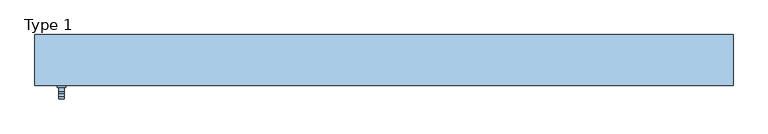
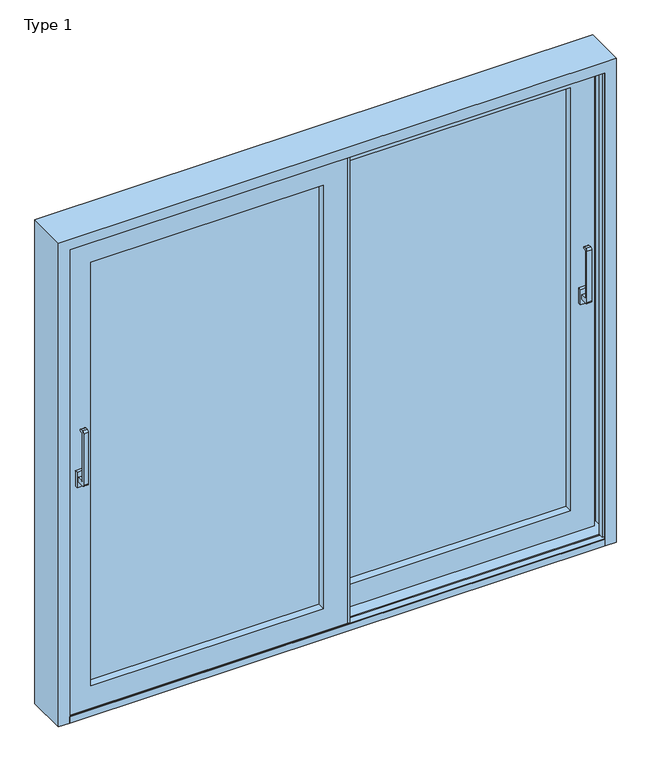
"""IFC4 building model written with IfcOpenShell, lengths in millimetres: window geometry, ETEM_ES70_Double_Lift_Sliding_FR : Type 1."""

import ifcopenshell
import ifcopenshell.guid

model = None  # the IFC model being written
_history = None  # IfcOwnerHistory: only IFC2X3 demands one
_inside = {}  # id of a spatial element -> (the spatial element, [elements in it])
_under = {}  # id of a project, library or spatial element -> (it, [spatial elements below it])
_declared = {}  # id of a project -> (the project, [libraries it declares])
_typed = {}  # id of a type object -> (the type object, [elements of that type])
_made_of = {}  # id of a material, layer set ... -> (it, [elements and type objects made of it])


def new_model(schema):
    """Start an empty IFC model of exactly this schema.

    Asked for "IFC4X3", IfcOpenShell would pick the latest addendum, in which some entities
    have other attributes; the version numbers below select the first issue.
    IFC2X3 requires an IfcOwnerHistory on every rooted entity: one is made here for all.
    """
    global model, _history
    if schema == "IFC4X3":
        model = ifcopenshell.file(schema_version=(4, 3, 0, 0))
    else:
        model = ifcopenshell.file(schema=schema)
    _inside.clear()
    _under.clear()
    _declared.clear()
    _typed.clear()
    _made_of.clear()
    _history = None
    if model.schema == "IFC2X3":
        org = make("IfcOrganization", Name="unknown")
        user = make(
            "IfcPersonAndOrganization",
            ThePerson=make("IfcPerson", FamilyName="unknown"),
            TheOrganization=org,
        )
        app = make(
            "IfcApplication",
            ApplicationDeveloper=org,
            Version="unknown",
            ApplicationFullName="unknown",
            ApplicationIdentifier="unknown",
        )
        _history = make(
            "IfcOwnerHistory",
            OwningUser=user,
            OwningApplication=app,
            ChangeAction="ADDED",
            CreationDate=0,
        )
    return model


def make(cls, **values):
    """One entity of the class cls with the attributes given. An attribute that is None is left unset."""
    return model.create_entity(
        cls, **{name: value for name, value in values.items() if value is not None}
    )


def rooted(cls, **values):
    """An entity with a GlobalId (a new one), such as an element, a storey or a relation."""
    return make(cls, GlobalId=ifcopenshell.guid.new(), OwnerHistory=_history, **values)


def si_unit(unit_type, name, prefix=None):
    """IfcSIUnit, for example si_unit("LENGTHUNIT", "METRE", prefix="MILLI")."""
    return make("IfcSIUnit", UnitType=unit_type, Prefix=prefix, Name=name)


def assignment(units):
    """IfcUnitAssignment: the units of a project."""
    return None if units is None else make("IfcUnitAssignment", Units=units)


def point(xyz):
    """IfcCartesianPoint."""
    return None if xyz is None else make("IfcCartesianPoint", Coordinates=xyz)


def direction(xyz):
    """IfcDirection."""
    return None if xyz is None else make("IfcDirection", DirectionRatios=xyz)


def frame(location, z_axis=None, x_axis=None):
    """IfcAxis2Placement3D, a coordinate frame: its origin and axes. An axis left out is left unset."""
    return make(
        "IfcAxis2Placement3D",
        Location=point(location),
        Axis=direction(z_axis),
        RefDirection=direction(x_axis),
    )


def frame_2d(location, x_axis=None):
    """IfcAxis2Placement2D, a coordinate frame in the plane: its origin and x axis."""
    return make(
        "IfcAxis2Placement2D", Location=point(location), RefDirection=direction(x_axis)
    )


def origin():
    """The frame at (0, 0, 0) with its axes left unset."""
    return frame((0.0, 0.0, 0.0))


def place(relative_to, where):
    """IfcLocalPlacement: puts the frame where relative to a parent placement (None: the world)."""
    return make(
        "IfcLocalPlacement", PlacementRelTo=relative_to, RelativePlacement=where
    )


def context(
    kind, dimensions, precision=None, world=None, true_north=None, identifier=None
):
    """IfcGeometricRepresentationContext, for example the 3D "Model" context."""
    return make(
        "IfcGeometricRepresentationContext",
        ContextIdentifier=identifier,
        ContextType=kind,
        CoordinateSpaceDimension=dimensions,
        Precision=precision,
        WorldCoordinateSystem=world,
        TrueNorth=true_north,
    )


def project(units=None, contexts=None):
    """IfcProject with its units and contexts."""
    return rooted(
        "IfcProject",
        Name="project",
        RepresentationContexts=contexts,
        UnitsInContext=assignment(units),
    )


def spatial(cls, under=None, at=None, **own):
    """A site, building, storey or space (cls), placed at a placement, below another one or the project."""
    s = rooted(cls, ObjectPlacement=at, **own)
    if under is not None:
        _under.setdefault(under.id(), (under, []))[1].append(s)
    return s


def polyline(points):
    """IfcPolyline through the points."""
    return make("IfcPolyline", Points=[point(p) for p in points])


def circle_curve(where, radius):
    """IfcCircle in the frame where."""
    return make("IfcCircle", Position=where, Radius=radius)


def trimmed(basis, trim1, trim2, sense, master):
    """IfcTrimmedCurve: the piece of a basis curve between two trims."""
    return make(
        "IfcTrimmedCurve",
        BasisCurve=basis,
        Trim1=trim1,
        Trim2=trim2,
        SenseAgreement=sense,
        MasterRepresentation=master,
    )


def segment(curve, same_sense, transition):
    """IfcCompositeCurveSegment."""
    return make(
        "IfcCompositeCurveSegment",
        Transition=transition,
        SameSense=same_sense,
        ParentCurve=curve,
    )


def composite_curve(segments, self_intersect=None):
    """IfcCompositeCurve: segments joined end to end."""
    return make("IfcCompositeCurve", Segments=segments, SelfIntersect=self_intersect)


def outline(outer, holes=None, kind="AREA"):
    """IfcArbitraryClosedProfileDef: a profile drawn as a closed curve; with holes, ...WithVoids."""
    if holes is None:
        return make("IfcArbitraryClosedProfileDef", ProfileType=kind, OuterCurve=outer)
    return make(
        "IfcArbitraryProfileDefWithVoids",
        ProfileType=kind,
        OuterCurve=outer,
        InnerCurves=holes,
    )


def extrude(swept, where, along, depth):
    """IfcExtrudedAreaSolid: the profile swept, set in the frame where, extruded along a direction by depth."""
    return make(
        "IfcExtrudedAreaSolid",
        SweptArea=swept,
        Position=where,
        ExtrudedDirection=direction(along),
        Depth=depth,
    )


def faces_of(points, faces, orient=None, outer=None):
    """IfcFace entities. A face is a list of loops; a loop is a list of indices into points, from 0.

    orient and outer hold one flag for each loop. By default every Orientation is true, the
    first loop of a face is its IfcFaceOuterBound and the others are IfcFaceBound.
    """
    made = []
    for i, loops in enumerate(faces):
        bounds = []
        for j, loop in enumerate(loops):
            is_outer = j == 0 if outer is None else outer[i][j]
            bounds.append(
                make(
                    "IfcFaceOuterBound" if is_outer else "IfcFaceBound",
                    Bound=make("IfcPolyLoop", Polygon=[points[k] for k in loop]),
                    Orientation=True if orient is None else orient[i][j],
                )
            )
        made.append(make("IfcFace", Bounds=bounds))
    return made


def faceted_brep(points, faces, orient=None, outer=None, voids=None):
    """IfcFacetedBrep: a solid bounded by flat faces; with voids (closed shells), ...WithVoids."""
    shared = [point(p) for p in points]
    hull = make("IfcClosedShell", CfsFaces=faces_of(shared, faces, orient, outer))
    if voids is None:
        return make("IfcFacetedBrep", Outer=hull)
    return make(
        "IfcFacetedBrepWithVoids",
        Outer=hull,
        Voids=[
            make(cls, CfsFaces=faces_of(shared, fs, o, b)) for cls, fs, o, b in voids
        ],
    )


def shape(context_of_items, identifier, shape_type, items):
    """IfcShapeRepresentation: the items that make up one representation, for example the "Body"."""
    return make(
        "IfcShapeRepresentation",
        ContextOfItems=context_of_items,
        RepresentationIdentifier=identifier,
        RepresentationType=shape_type,
        Items=items,
    )


def source(mapping_origin, context_of_items, identifier, shape_type, items):
    """IfcRepresentationMap: a shape defined once, which mapped items show again and again."""
    return make(
        "IfcRepresentationMap",
        MappingOrigin=mapping_origin,
        MappedRepresentation=shape(context_of_items, identifier, shape_type, items),
    )


def transform(
    local_origin,
    x_axis=None,
    y_axis=None,
    z_axis=None,
    scale=None,
    scale2=None,
    scale3=None,
    uniform=True,
):
    """IfcCartesianTransformationOperator3D, or its non-uniform kind. x_axis, y_axis, z_axis: its Axis1, 2, 3."""
    if uniform:
        return make(
            "IfcCartesianTransformationOperator3D",
            Axis1=direction(x_axis),
            Axis2=direction(y_axis),
            LocalOrigin=point(local_origin),
            Scale=scale,
            Axis3=direction(z_axis),
        )
    return make(
        "IfcCartesianTransformationOperator3DnonUniform",
        Axis1=direction(x_axis),
        Axis2=direction(y_axis),
        LocalOrigin=point(local_origin),
        Scale=scale,
        Axis3=direction(z_axis),
        Scale2=scale2,
        Scale3=scale3,
    )


def mapped(mapping_source, mapping_target):
    """IfcMappedItem: shows the shape of a source again, moved by a transform."""
    return make(
        "IfcMappedItem", MappingSource=mapping_source, MappingTarget=mapping_target
    )


def made_of(thing, what):
    """Note that an element or type object is made of a material, layer set ...; save() writes the relation."""
    if what is not None:
        _made_of.setdefault(what.id(), (what, []))[1].append(thing)
    return thing


def element(
    cls,
    number,
    at=None,
    inside=None,
    cuts=None,
    type_object=None,
    material=None,
    context=None,
    identifier="Body",
    shape_type=None,
    held_by="IfcProductDefinitionShape",
    body=None,
    shapes=None,
    **own,
):
    """One element of the class cls, such as IfcWall. Its Tag is "e" and its number.

    at: its placement. inside: the storey or other place that contains it. cuts: it is an
    opening in that element (IfcRelVoidsElement). A single representation is given by context,
    identifier, shape_type and body (its items); several are given by shapes. held_by: the class
    of the entity that holds the representations. save() writes the other relations.
    """
    e = rooted(cls, Tag="e%d" % number, ObjectPlacement=at, **own)
    if body is not None:
        shapes = [shape(context, identifier, shape_type, body)]
    if shapes is not None:
        e.Representation = make(held_by, Representations=shapes)
    if inside is not None:
        _inside.setdefault(inside.id(), (inside, []))[1].append(e)
    if cuts is not None:
        rooted(
            "IfcRelVoidsElement", RelatingBuildingElement=cuts, RelatedOpeningElement=e
        )
    if type_object is not None:
        _typed.setdefault(type_object.id(), (type_object, []))[1].append(e)
    return made_of(e, material)


def aggregate(whole, parts):
    """IfcRelAggregates: a whole, such as a stair, and the parts it consists of."""
    return rooted("IfcRelAggregates", RelatingObject=whole, RelatedObjects=parts)


def save(model, path):
    """Write the relations noted so far, then the file.

    IfcRelAggregates (storeys below a building ...), IfcRelContainedInSpatialStructure (elements
    in a storey), IfcRelDefinesByType, IfcRelAssociatesMaterial and IfcRelDeclares: one each for
    every whole, place, type object, material and project.
    """
    for whole, parts in _under.values():
        aggregate(whole, parts)
    for where, things in _inside.values():
        rooted(
            "IfcRelContainedInSpatialStructure",
            RelatedElements=things,
            RelatingStructure=where,
        )
    for kind, things in _typed.values():
        rooted("IfcRelDefinesByType", RelatedObjects=things, RelatingType=kind)
    for what, things in _made_of.values():
        rooted("IfcRelAssociatesMaterial", RelatedObjects=things, RelatingMaterial=what)
    for by, libraries in _declared.values():
        rooted("IfcRelDeclares", RelatingContext=by, RelatedDefinitions=libraries)
    model.write(path)


def type_1_8090e060(model_context):
    return source(origin(), model_context, "Body", "SolidModel", [
        extrude(outline(composite_curve([segment(polyline([(39.6, 1090.0), (8.0263152, 1090.0)]), True, "CONTINUOUS"), segment(trimmed(circle_curve(frame_2d((8.0263152, 1098.4263152)), 8.4263152), [point((8.0263152, 1090.0))], [point((-0.4, 1098.4263152))], False, "CARTESIAN"), True, "CONTINUOUS"), segment(polyline([(-0.4, 1098.4263152), (-0.4, 1331.5736848)]), True, "CONTINUOUS"), segment(trimmed(circle_curve(frame_2d((8.0263152, 1331.5736848)), 8.4263152), [point((-0.4, 1331.5736848))], [point((8.0263152, 1340.0))], False, "CARTESIAN"), True, "CONTINUOUS"), segment(polyline([(8.0263152, 1340.0), (19.6, 1340.0)]), True, "CONTINUOUS"), segment(trimmed(circle_curve(frame_2d((19.6, 1335.0)), 5.0), [point((19.6, 1340.0))], [point((19.6, 1330.0))], False, "CARTESIAN"), True, "CONTINUOUS"), segment(polyline([(19.6, 1330.0), (13.1355339, 1330.0)]), True, "CONTINUOUS"), segment(trimmed(circle_curve(frame_2d((13.1355339, 1326.4644661)), 3.5355339), [point((13.1355339, 1330.0))], [point((9.6, 1326.4644661))], True, "CARTESIAN"), True, "CONTINUOUS"), segment(polyline([(9.6, 1326.4644661), (9.6, 1113.5355339)]), True, "CONTINUOUS"), segment(trimmed(circle_curve(frame_2d((13.1355339, 1113.5355339)), 3.5355339), [point((9.6, 1113.5355339))], [point((13.1355339, 1110.0))], True, "CARTESIAN"), True, "CONTINUOUS"), segment(polyline([(13.1355339, 1110.0), (39.6, 1110.0), (39.6, 1090.0)]), True, "CONTINUOUS")], self_intersect=False)), frame((1098.5, 0.0, 0.0), z_axis=(1.0, 0.0, 0.0), x_axis=(0.0, 1.0, 0.0)), (0.0, 0.0, 1.0), 20.0),
        extrude(outline(polyline([(1123.5, 39.6), (1093.5, 39.6), (1093.5, 52.6), (1123.5, 52.6), (1123.5, 39.6)])), frame((0.0, 0.0, 1065.0), z_axis=(0.0, 0.0, 1.0), x_axis=(1.0, 0.0, 0.0)), (0.0, 0.0, 1.0), 70.0),
        extrude(outline(composite_curve([segment(polyline([(-50.4, 1090.0), (-81.9736848, 1090.0)]), True, "CONTINUOUS"), segment(trimmed(circle_curve(frame_2d((-81.9736848, 1098.4263152)), 8.4263152), [point((-81.9736848, 1090.0))], [point((-90.4, 1098.4263152))], False, "CARTESIAN"), True, "CONTINUOUS"), segment(polyline([(-90.4, 1098.4263152), (-90.4, 1331.5736848)]), True, "CONTINUOUS"), segment(trimmed(circle_curve(frame_2d((-81.9736848, 1331.5736848)), 8.4263152), [point((-90.4, 1331.5736848))], [point((-81.9736848, 1340.0))], False, "CARTESIAN"), True, "CONTINUOUS"), segment(polyline([(-81.9736848, 1340.0), (-70.4, 1340.0)]), True, "CONTINUOUS"), segment(trimmed(circle_curve(frame_2d((-70.4, 1335.0)), 5.0), [point((-70.4, 1340.0))], [point((-70.4, 1330.0))], False, "CARTESIAN"), True, "CONTINUOUS"), segment(polyline([(-70.4, 1330.0), (-76.8644661, 1330.0)]), True, "CONTINUOUS"), segment(trimmed(circle_curve(frame_2d((-76.8644661, 1326.4644661)), 3.5355339), [point((-76.8644661, 1330.0))], [point((-80.4, 1326.4644661))], True, "CARTESIAN"), True, "CONTINUOUS"), segment(polyline([(-80.4, 1326.4644661), (-80.4, 1113.5355339)]), True, "CONTINUOUS"), segment(trimmed(circle_curve(frame_2d((-76.8644661, 1113.5355339)), 3.5355339), [point((-80.4, 1113.5355339))], [point((-76.8644661, 1110.0))], True, "CARTESIAN"), True, "CONTINUOUS"), segment(polyline([(-76.8644661, 1110.0), (-50.4, 1110.0), (-50.4, 1090.0)]), True, "CONTINUOUS")], self_intersect=False)), frame((-1118.5, 0.0, 0.0), z_axis=(1.0, 0.0, 0.0), x_axis=(0.0, 1.0, 0.0)), (0.0, 0.0, 1.0), 20.0),
        extrude(outline(polyline([(-1093.5, -50.4), (-1123.5, -50.4), (-1123.5, -37.4), (-1093.5, -37.4), (-1093.5, -50.4)])), frame((0.0, 0.0, 1065.0), z_axis=(0.0, 0.0, 1.0), x_axis=(1.0, 0.0, 0.0)), (0.0, 0.0, 1.0), 70.0),
        faceted_brep([(-1200.0, 131.1, 0.0), (-1152.0, 131.1, 0.0), (-1152.0, 124.0, 0.0), (-1183.7, 124.0, 0.0), (-1183.7, 92.1, 0.0), (-1160.0, 92.1, 0.0), (-1160.0, 106.1, 0.0), (-1152.0, 106.1, 0.0), (-1152.0, 83.1, 0.0), (-1183.7, 83.1, 0.0), (-1183.7, 2.1, 0.0), (-1152.0, 2.1, 0.0), (-1152.0, -20.9, 0.0), (-1160.0, -20.9, 0.0), (-1160.0, -6.9, 0.0), (-1183.7, -6.9, 0.0), (-1183.7, -40.2, 0.0), (-1152.0, -40.2, 0.0), (-1152.0, -44.0, 0.0), (-1200.0, -44.0, 0.0), (-1152.0, 124.0, 2152.0), (1152.0, 124.0, 2152.0), (1152.0, 124.0, 0.0), (1183.7, 124.0, 0.0), (1183.7, 124.0, 2183.7), (-1183.7, 124.0, 2183.7), (-1200.0, -44.0, 2200.0), (-1200.0, 131.1, 2200.0), (1200.0, 131.1, 2200.0), (1200.0, 131.1, 0.0), (1152.0, 131.1, 0.0), (1152.0, 131.1, 2152.0), (-1152.0, 131.1, 2152.0), (1200.0, -44.0, 0.0), (1152.0, -44.0, 0.0), (1152.0, -40.2, 0.0), (1183.7, -40.2, 0.0), (1183.7, -6.9, 0.0), (1160.0, -6.9, 0.0), (1160.0, -20.9, 0.0), (1152.0, -20.9, 0.0), (1152.0, 2.1, 0.0), (1183.7, 2.1, 0.0), (1183.7, 83.1, 0.0), (1152.0, 83.1, 0.0), (1152.0, 106.1, 0.0), (1160.0, 106.1, 0.0), (1160.0, 92.1, 0.0), (1183.7, 92.1, 0.0), (1200.0, -44.0, 2200.0), (-1183.7, 92.1, 2183.7), (1183.7, 92.1, 2183.7), (1160.0, 92.1, 2160.0), (-1160.0, 92.1, 2160.0), (-1160.0, 106.1, 2160.0), (1160.0, 106.1, 2160.0), (1152.0, 106.1, 2152.0), (-1152.0, 106.1, 2152.0), (-1152.0, 83.1, 2152.0), (1152.0, 83.1, 2152.0), (1183.7, 83.1, 2183.7), (-1183.7, 83.1, 2183.7), (-1183.7, 2.1, 2183.7), (1183.7, 2.1, 2183.7), (1152.0, 2.1, 2152.0), (-1152.0, 2.1, 2152.0), (-1152.0, -20.9, 2152.0), (1152.0, -20.9, 2152.0), (1160.0, -20.9, 2160.0), (-1160.0, -20.9, 2160.0), (-1160.0, -6.9, 2160.0), (1160.0, -6.9, 2160.0), (1183.7, -6.9, 2183.7), (-1183.7, -6.9, 2183.7), (-1183.7, -40.2, 2183.7), (1183.7, -40.2, 2183.7), (1152.0, -40.2, 2152.0), (-1152.0, -40.2, 2152.0), (-1152.0, -44.0, 2152.0), (1152.0, -44.0, 2152.0)], [[[0, 1, 2, 3, 4, 5, 6, 7, 8, 9, 10, 11, 12, 13, 14, 15, 16, 17, 18, 19]], [[2, 20, 21, 22, 23, 24, 25, 3]], [[0, 19, 26, 27]], [[1, 0, 27, 28, 29, 30, 31, 32]], [[2, 1, 32, 20]], [[33, 34, 35, 36, 37, 38, 39, 40, 41, 42, 43, 44, 45, 46, 47, 48, 23, 22, 30, 29]], [[33, 29, 28, 49]], [[30, 22, 21, 31]], [[32, 31, 21, 20]], [[28, 27, 26, 49]], [[4, 3, 25, 50]], [[5, 4, 50, 51, 48, 47, 52, 53]], [[6, 5, 53, 54]], [[7, 6, 54, 55, 46, 45, 56, 57]], [[8, 7, 57, 58]], [[9, 8, 58, 59, 44, 43, 60, 61]], [[10, 9, 61, 62]], [[11, 10, 62, 63, 42, 41, 64, 65]], [[12, 11, 65, 66]], [[13, 12, 66, 67, 40, 39, 68, 69]], [[14, 13, 69, 70]], [[15, 14, 70, 71, 38, 37, 72, 73]], [[16, 15, 73, 74]], [[17, 16, 74, 75, 36, 35, 76, 77]], [[18, 17, 77, 78]], [[19, 18, 78, 79, 34, 33, 49, 26]], [[35, 34, 79, 76]], [[37, 36, 75, 72]], [[39, 38, 71, 68]], [[41, 40, 67, 64]], [[43, 42, 63, 60]], [[45, 44, 59, 56]], [[47, 46, 55, 52]], [[23, 48, 51, 24]], [[50, 25, 24, 51]], [[53, 52, 55, 54]], [[57, 56, 59, 58]], [[61, 60, 63, 62]], [[65, 64, 67, 66]], [[69, 68, 71, 70]], [[73, 72, 75, 74]], [[79, 78, 77, 76]]]),
        faceted_brep([(-56.5, -37.4, 133.0), (-56.5, 32.6, 133.0), (-1058.0, 32.6, 133.0), (-1058.0, -37.4, 133.0), (46.5, -25.0, 30.0), (46.5, -37.4, 30.0), (-1161.0, -37.4, 30.0), (-1161.0, -25.0, 30.0), (15.4, 20.2, 61.1), (15.4, -25.0, 61.1), (-1129.9, -25.0, 61.1), (-1129.9, 20.2, 61.1), (46.5, 32.6, 30.0), (46.5, 20.2, 30.0), (-1161.0, 20.2, 30.0), (-1161.0, 32.6, 30.0), (-1058.0, 32.6, 2058.0), (-1058.0, -37.4, 2058.0), (-1161.0, -37.4, 2161.0), (-1161.0, -25.0, 2161.0), (-1129.9, -25.0, 2129.9), (-1129.9, 20.2, 2129.9), (-1161.0, 20.2, 2161.0), (-1161.0, 32.6, 2161.0), (-56.5, 32.6, 2058.0), (-56.5, -37.4, 2058.0), (46.5, -37.4, 2161.0), (46.5, -25.0, 2161.0), (15.4, -25.0, 2129.9), (15.4, 20.2, 2129.9), (46.5, 20.2, 2161.0), (46.5, 32.6, 2161.0)], [[[0, 1, 2, 3]], [[4, 5, 6, 7]], [[8, 9, 10, 11]], [[12, 13, 14, 15]], [[3, 2, 16, 17]], [[7, 6, 18, 19]], [[11, 10, 20, 21]], [[15, 14, 22, 23]], [[17, 16, 24, 25]], [[19, 18, 26, 27]], [[21, 20, 28, 29]], [[23, 22, 30, 31]], [[25, 24, 1, 0]], [[15, 23, 31, 12], [1, 24, 16, 2]], [[5, 26, 18, 6], [3, 17, 25, 0]], [[27, 26, 5, 4]], [[7, 19, 27, 4], [9, 28, 20, 10]], [[29, 28, 9, 8]], [[13, 30, 22, 14], [11, 21, 29, 8]], [[31, 30, 13, 12]]]),
        extrude(outline(polyline([(-1058.0, 2.6007591), (-56.5, 2.6007591), (-56.5, -3.3992409), (-1058.0, -3.3992409), (-1058.0, 2.6007591)])), frame((0.0, 0.0, 133.0), z_axis=(0.0, 0.0, 1.0), x_axis=(1.0, 0.0, 0.0)), (0.0, 0.0, 1.0), 1925.0),
        extrude(outline(polyline([(56.5, 114.6007591), (1058.0, 114.6007591), (1058.0, 108.6007591), (56.5, 108.6007591), (56.5, 114.6007591)])), frame((0.0, 0.0, 133.0), z_axis=(0.0, 0.0, 1.0), x_axis=(1.0, 0.0, 0.0)), (0.0, 0.0, 1.0), 1925.0),
        faceted_brep([(-46.5, 110.2, 30.0), (-46.5, 122.6, 30.0), (1161.0, 122.6, 30.0), (1161.0, 110.2, 30.0), (-15.4, 65.0, 61.1), (-15.4, 110.2, 61.1), (1129.9, 110.2, 61.1), (1129.9, 65.0, 61.1), (-46.5, 52.6, 30.0), (-46.5, 65.0, 30.0), (1161.0, 65.0, 30.0), (1161.0, 52.6, 30.0), (56.5, 122.6, 133.0), (56.5, 52.6, 133.0), (1058.0, 52.6, 133.0), (1058.0, 122.6, 133.0), (1058.0, 52.6, 2058.0), (1058.0, 122.6, 2058.0), (1161.0, 122.6, 2161.0), (1161.0, 110.2, 2161.0), (1129.9, 110.2, 2129.9), (1129.9, 65.0, 2129.9), (1161.0, 65.0, 2161.0), (1161.0, 52.6, 2161.0), (-46.5, 122.6, 2161.0), (-46.5, 110.2, 2161.0), (-15.4, 110.2, 2129.9), (-15.4, 65.0, 2129.9), (-46.5, 65.0, 2161.0), (-46.5, 52.6, 2161.0), (56.5, 52.6, 2058.0), (56.5, 122.6, 2058.0)], [[[0, 1, 2, 3]], [[4, 5, 6, 7]], [[8, 9, 10, 11]], [[12, 13, 14, 15]], [[15, 14, 16, 17]], [[3, 2, 18, 19]], [[7, 6, 20, 21]], [[11, 10, 22, 23]], [[19, 18, 24, 25]], [[21, 20, 26, 27]], [[23, 22, 28, 29]], [[17, 16, 30, 31]], [[25, 24, 1, 0]], [[1, 24, 18, 2], [15, 17, 31, 12]], [[3, 19, 25, 0], [5, 26, 20, 6]], [[27, 26, 5, 4]], [[9, 28, 22, 10], [7, 21, 27, 4]], [[29, 28, 9, 8]], [[11, 23, 29, 8], [13, 30, 16, 14]], [[31, 30, 13, 12]]]),
        extrude(outline(polyline([(-1058.0, 24.6007591), (-56.5, 24.6007591), (-56.5, 18.6007591), (-1058.0, 18.6007591), (-1058.0, 24.6007591)])), frame((0.0, 0.0, 133.0), z_axis=(0.0, 0.0, 1.0), x_axis=(1.0, 0.0, 0.0)), (0.0, 0.0, 1.0), 1925.0),
        extrude(outline(polyline([(56.5, 92.6007591), (1058.0, 92.6007591), (1058.0, 86.6007591), (56.5, 86.6007591), (56.5, 92.6007591)])), frame((0.0, 0.0, 133.0), z_axis=(0.0, 0.0, 1.0), x_axis=(1.0, 0.0, 0.0)), (0.0, 0.0, 1.0), 1925.0),
        extrude(outline(polyline([(46.5, 48.6), (56.5, 48.6), (56.5, -37.4), (46.5, -37.4), (46.5, 48.6)])), frame((0.0, 0.0, 30.0), z_axis=(0.0, 0.0, 1.0), x_axis=(1.0, 0.0, 0.0)), (0.0, 0.0, 1.0), 2131.0),
        extrude(outline(polyline([(-46.5, 122.6), (-46.5, 38.6), (-56.5, 38.6), (-56.5, 122.6), (-46.5, 122.6)])), frame((0.0, 0.0, 30.0), z_axis=(0.0, 0.0, 1.0), x_axis=(1.0, 0.0, 0.0)), (0.0, 0.0, 1.0), 2131.0),
        faceted_brep([(1152.0, -40.1947513, 25.0), (1183.7, -40.1947513, 25.0), (1183.7, -6.9, 25.0), (1160.0, -6.9, 25.0), (1160.0, -20.9, 25.0), (1152.0, -20.9, 25.0), (1152.0, -4.8, 25.0), (-1152.0, -4.8, 25.0), (-1152.0, -20.9, 25.0), (-1160.0, -20.9, 25.0), (-1160.0, -6.9, 25.0), (-1183.7, -6.9, 25.0), (-1183.7, -40.1947513, 25.0), (-1152.0, -40.1947513, 25.0), (1183.7, 123.0, 25.0), (1183.7, 123.0, 0.0), (-1183.7, 123.0, 0.0), (-1183.7, 123.0, 25.0), (1152.0, -43.9943177, 0.0), (1152.0, -43.9943177, 30.0), (-1152.0, -43.9943177, 30.0), (-1152.0, -43.9943177, 0.0), (1152.0, 106.1, 0.0), (1152.0, 83.1, 0.0), (1183.7, 83.1, 0.0), (1183.7, 2.1, 0.0), (1152.0, 2.1, 0.0), (1152.0, -20.9, 0.0), (1160.0, -20.9, 0.0), (1160.0, -6.9, 0.0), (1183.7, -6.9, 0.0), (1183.7, -40.1947513, 0.0), (1152.0, -40.1947513, 0.0), (-1152.0, -40.1947513, 0.0), (-1183.7, -40.1947513, 0.0), (-1183.7, -6.9, 0.0), (-1160.0, -6.9, 0.0), (-1160.0, -20.9, 0.0), (-1152.0, -20.9, 0.0), (-1152.0, 2.1, 0.0), (-1183.7, 2.1, 0.0), (-1183.7, 83.1, 0.0), (-1152.0, 83.1, 0.0), (-1152.0, 106.1, 0.0), (-1160.0, 106.1, 0.0), (-1160.0, 92.1, 0.0), (-1183.7, 92.1, 0.0), (1183.7, 92.1, 0.0), (1160.0, 92.1, 0.0), (1160.0, 106.1, 0.0), (1152.0, -40.1947513, 30.0), (-1152.0, -40.1947513, 30.0), (1152.0, 106.1, 25.0), (1152.0, 90.0, 25.0), (1152.0, 90.0, 21.0), (1152.0, 85.2, 21.0), (1152.0, 85.2, 25.0), (1152.0, 83.1, 25.0), (1160.0, 106.1, 25.0), (1160.0, 92.1, 25.0), (1183.7, 92.1, 25.0), (1152.0, 2.1, 25.0), (1152.0, 0.0, 25.0), (1152.0, 0.0, 21.0), (1152.0, -4.8, 21.0), (1183.7, 2.1, 25.0), (1183.7, 83.1, 25.0), (-1152.0, 83.1, 25.0), (-1152.0, 85.2, 25.0), (-1152.0, 85.2, 21.0), (-1152.0, 90.0, 21.0), (-1152.0, 90.0, 25.0), (-1152.0, 106.1, 25.0), (-1160.0, 106.1, 25.0), (-1160.0, 92.1, 25.0), (-1183.7, 92.1, 25.0), (-1152.0, -4.8, 21.0), (-1152.0, 0.0, 21.0), (-1152.0, 0.0, 25.0), (-1152.0, 2.1, 25.0), (-1183.7, 2.1, 25.0), (-1183.7, 83.1, 25.0)], [[[0, 1, 2, 3, 4, 5, 6, 7, 8, 9, 10, 11, 12, 13]], [[14, 15, 16, 17]], [[18, 19, 20, 21]], [[22, 23, 24, 25, 26, 27, 28, 29, 30, 31, 32, 18, 21, 33, 34, 35, 36, 37, 38, 39, 40, 41, 42, 43, 44, 45, 46, 16, 15, 47, 48, 49]], [[50, 0, 13, 51]], [[19, 50, 51, 20]], [[22, 52, 53, 54, 55, 56, 57, 23]], [[52, 22, 49, 58]], [[58, 49, 48, 59]], [[59, 48, 47, 60]], [[60, 47, 15, 14]], [[32, 0, 50, 19, 18]], [[0, 32, 31, 1]], [[1, 31, 30, 2]], [[2, 30, 29, 3]], [[3, 29, 28, 4]], [[4, 28, 27, 5]], [[5, 27, 26, 61, 62, 63, 64, 6]], [[61, 26, 25, 65]], [[65, 25, 24, 66]], [[66, 24, 23, 57]], [[42, 67, 68, 69, 70, 71, 72, 43]], [[43, 72, 73, 44]], [[44, 73, 74, 45]], [[45, 74, 75, 46]], [[46, 75, 17, 16]], [[13, 33, 21, 20, 51]], [[33, 13, 12, 34]], [[34, 12, 11, 35]], [[35, 11, 10, 36]], [[36, 10, 9, 37]], [[37, 9, 8, 38]], [[38, 8, 7, 76, 77, 78, 79, 39]], [[39, 79, 80, 40]], [[40, 80, 81, 41]], [[67, 42, 41, 81]], [[53, 52, 58, 59, 60, 14, 17, 75, 74, 73, 72, 71]], [[54, 53, 71, 70]], [[55, 54, 70, 69]], [[56, 55, 69, 68]], [[57, 56, 68, 67, 81, 80, 79, 78, 62, 61, 65, 66]], [[63, 62, 78, 77]], [[64, 63, 77, 76]], [[6, 64, 76, 7]]]),
    ])


if __name__ == "__main__":
    model = new_model("IFC4")
    model_context = context("Model", 3, world=origin())
    ifc_project = project(units=[si_unit("LENGTHUNIT", "METRE", prefix="MILLI")], contexts=[model_context])
    site = spatial("IfcSite", under=ifc_project)
    building = spatial("IfcBuilding", under=site)
    placement = place(None, origin())
    type_1_shape = type_1_8090e060(model_context)
    element("IfcWindow", 1, ObjectType="ETEM_ES70_Double_Lift_Sliding_FR : Type 1", at=placement, inside=building, context=model_context, shape_type="MappedRepresentation", body=[
        mapped(type_1_shape, transform((0.0, 0.0, 0.0), x_axis=(1.0, 0.0, 0.0), y_axis=(0.0, 1.0, 0.0), z_axis=(0.0, 0.0, 1.0))),
    ])
    save(model, "model.ifc")
